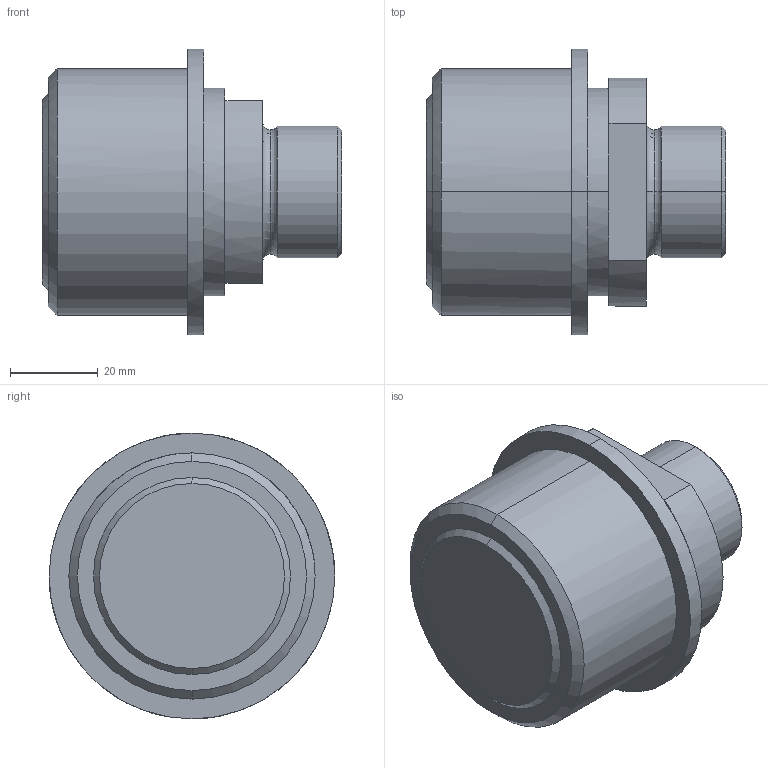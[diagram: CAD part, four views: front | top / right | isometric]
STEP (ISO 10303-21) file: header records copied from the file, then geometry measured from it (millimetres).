
FILE_DESCRIPTION(('CATIA V5 STEP Exchange'),'2;1');
FILE_NAME('C:\Users\Utente\Desktop\IO LAVORO\3D X SITO CF\X SITO\PLASTICA\AGS\AGS3412M30.stp','2021-02-21T19:35:40+00:00',('none'),('none'),'CATIA Version 5 Release 20 GA (IN-10)','CATIA V5 STEP AP203','none');
FILE_SCHEMA(('CONFIG_CONTROL_DESIGN'));
Length unit declared in the file: millimetre
Products named in the file (1): AGS3412M30
Bounding box: 68 x 65 x 65 mm (x, y, z)
Volume: 128915.4 mm3; surface area: 17030.6 mm2
Topology: 1 solids, 1 shells, 32 faces, 90 edges, 64 vertices
Faces by surface type: plane 12, cylinder 10, cone 6, torus 4
Entity records: 1198 total; most frequent: CARTESIAN_POINT 343, ORIENTED_EDGE 180, DIRECTION 139, EDGE_CURVE 90, AXIS2_PLACEMENT_3D 82, VERTEX_POINT 64, CIRCLE 49, EDGE_LOOP 36
